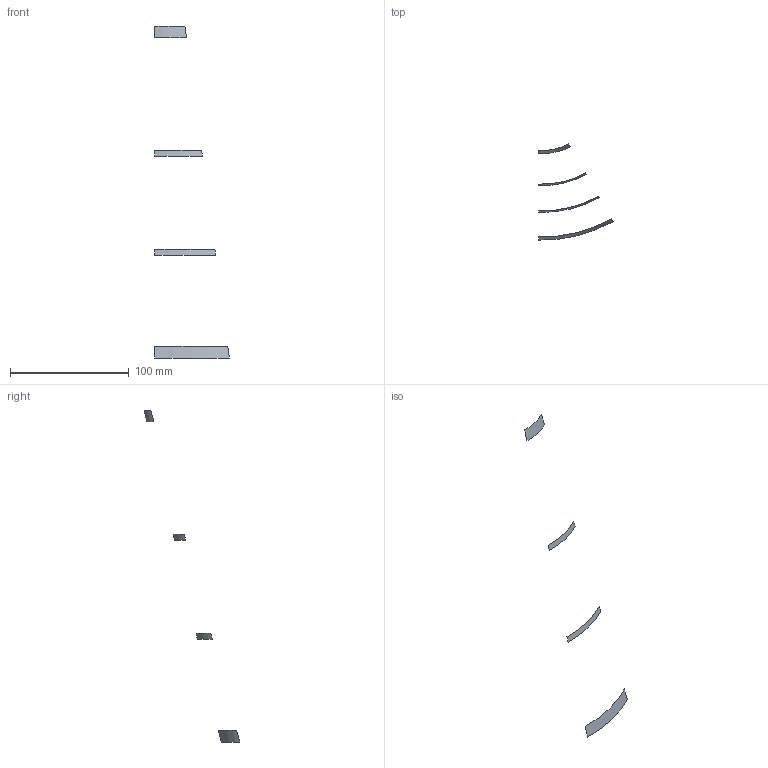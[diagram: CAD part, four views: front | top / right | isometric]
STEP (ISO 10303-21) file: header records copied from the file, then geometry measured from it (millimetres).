
FILE_DESCRIPTION(('CATIA V5 STEP Exchange'),'2;1');
FILE_NAME('C:\Users\diego\Dropbox\Academic\MEng Space Systems\3. MUE - Materiales uso Espacial\Coursework\Modelo FEM\CATIA\.stp\H_Stiffeners.stp','2021-11-25T16:15:32+00:00',('none'),('none'),'CATIA Version 5 Release 21 GA (IN-10)','CATIA V5 STEP AP203','none');
FILE_SCHEMA(('CONFIG_CONTROL_DESIGN'));
Length unit declared in the file: millimetre
Products named in the file (1): Part1
Bounding box: 63.12 x 80.63 x 279.9 mm (x, y, z)
Surface area: 1446.7 mm2 (no closed solid volume)
Topology: 0 solids, 4 shells, 4 faces, 16 edges, 16 vertices
Faces by surface type: cone 4
Entity records: 224 total; most frequent: CARTESIAN_POINT 61, DIRECTION 16, ORIENTED_EDGE 16, EDGE_CURVE 16, VERTEX_POINT 16, AXIS2_PLACEMENT_3D 13, B_SPLINE_CURVE_WITH_KNOTS 8, CIRCLE 8
